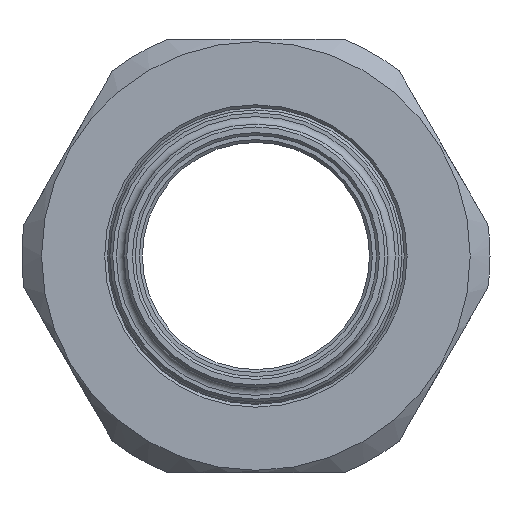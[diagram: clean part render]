
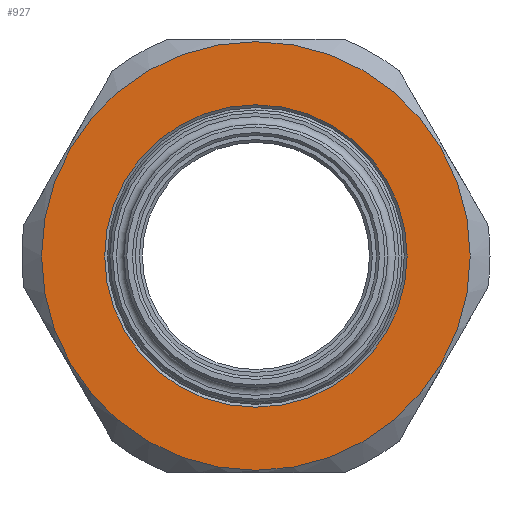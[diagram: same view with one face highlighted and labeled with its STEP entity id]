
A CAD part, left-side view. The second image highlights one B-rep face of the part: STEP entity #927.
In plain terms, the highlighted planar face has unit normal (-1, 0, 0).
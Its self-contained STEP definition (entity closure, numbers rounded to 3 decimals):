
#38=FACE_BOUND('',#179,.T.);
#89=PLANE('',#1081);
#121=FACE_OUTER_BOUND('',#178,.T.);
#178=EDGE_LOOP('',(#717));
#179=EDGE_LOOP('',(#718));
#329=CIRCLE('',#1061,22.75);
#339=CIRCLE('',#1080,16.05);
#416=VERTEX_POINT('',#1599);
#425=VERTEX_POINT('',#1634);
#520=EDGE_CURVE('',#416,#416,#329,.T.);
#534=EDGE_CURVE('',#425,#425,#339,.T.);
#717=ORIENTED_EDGE('',*,*,#520,.T.);
#718=ORIENTED_EDGE('',*,*,#534,.F.);
#927=ADVANCED_FACE('',(#121,#38),#89,.T.);
#1061=AXIS2_PLACEMENT_3D('',#1601,#1241,#1242);
#1080=AXIS2_PLACEMENT_3D('',#1635,#1282,#1283);
#1081=AXIS2_PLACEMENT_3D('',#1637,#1285,#1286);
#1241=DIRECTION('center_axis',(-1.,0.,0.));
#1242=DIRECTION('ref_axis',(0.,1.,0.));
#1282=DIRECTION('center_axis',(-1.,0.,0.));
#1283=DIRECTION('ref_axis',(0.,0.,-1.));
#1285=DIRECTION('center_axis',(-1.,0.,0.));
#1286=DIRECTION('ref_axis',(0.,0.,1.));
#1599=CARTESIAN_POINT('',(-19.,-22.75,0.));
#1601=CARTESIAN_POINT('Origin',(-19.,0.,0.));
#1634=CARTESIAN_POINT('',(-19.,0.,16.05));
#1635=CARTESIAN_POINT('Origin',(-19.,0.,0.));
#1637=CARTESIAN_POINT('Origin',(-19.,0.,0.));
